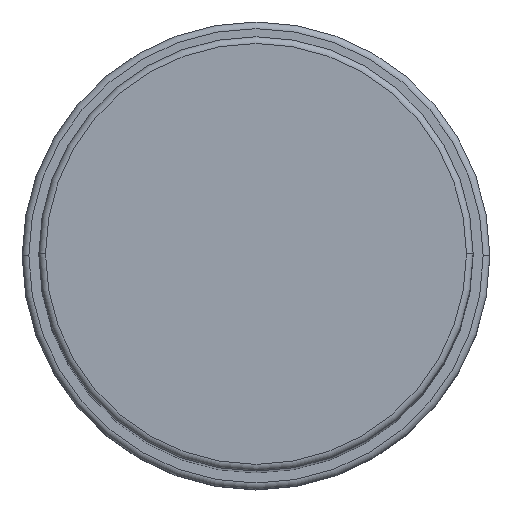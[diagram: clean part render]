
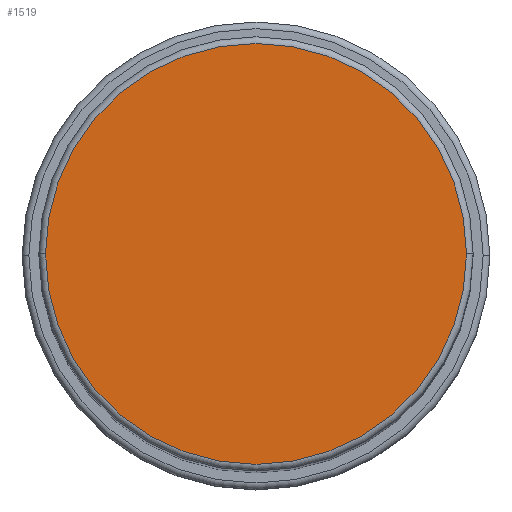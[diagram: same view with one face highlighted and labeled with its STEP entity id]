
A CAD part, top view. The second image highlights one B-rep face of the part: STEP entity #1519.
In plain terms, the highlighted planar face has unit normal (0, 0, 1).
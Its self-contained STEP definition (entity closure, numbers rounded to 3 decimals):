
#9 = AXIS2_PLACEMENT_3D ( 'NONE', #825, #1086, #832 ) ;
#56 = DIRECTION ( 'NONE',  ( 0., 0., 1. ) ) ;
#178 = EDGE_LOOP ( 'NONE', ( #1599, #646 ) ) ;
#192 = PLANE ( 'NONE',  #9 ) ;
#220 = CIRCLE ( 'NONE', #900, 31.5 ) ;
#320 = CARTESIAN_POINT ( 'NONE',  ( 0., 0., 178. ) ) ;
#420 = EDGE_CURVE ( 'NONE', #971, #689, #794, .T. ) ;
#481 = CARTESIAN_POINT ( 'NONE',  ( 31.5, 0., 178. ) ) ;
#505 = DIRECTION ( 'NONE',  ( 0., 0., 1. ) ) ;
#551 = DIRECTION ( 'NONE',  ( 1., 0., 0. ) ) ;
#646 = ORIENTED_EDGE ( 'NONE', *, *, #420, .T. ) ;
#689 = VERTEX_POINT ( 'NONE', #481 ) ;
#774 = FACE_OUTER_BOUND ( 'NONE', #178, .T. ) ;
#794 = CIRCLE ( 'NONE', #1389, 31.5 ) ;
#825 = CARTESIAN_POINT ( 'NONE',  ( 0., 0., 178. ) ) ;
#832 = DIRECTION ( 'NONE',  ( 1., 0., 0. ) ) ;
#900 = AXIS2_PLACEMENT_3D ( 'NONE', #1634, #505, #1145 ) ;
#971 = VERTEX_POINT ( 'NONE', #1468 ) ;
#1086 = DIRECTION ( 'NONE',  ( 0., 0., 1. ) ) ;
#1145 = DIRECTION ( 'NONE',  ( 1., 0., 0. ) ) ;
#1389 = AXIS2_PLACEMENT_3D ( 'NONE', #320, #56, #551 ) ;
#1468 = CARTESIAN_POINT ( 'NONE',  ( -31.5, 0., 178. ) ) ;
#1519 = ADVANCED_FACE ( 'NONE', ( #774 ), #192, .T. ) ;
#1599 = ORIENTED_EDGE ( 'NONE', *, *, #1629, .T. ) ;
#1629 = EDGE_CURVE ( 'NONE', #689, #971, #220, .T. ) ;
#1634 = CARTESIAN_POINT ( 'NONE',  ( 0., 0., 178. ) ) ;
